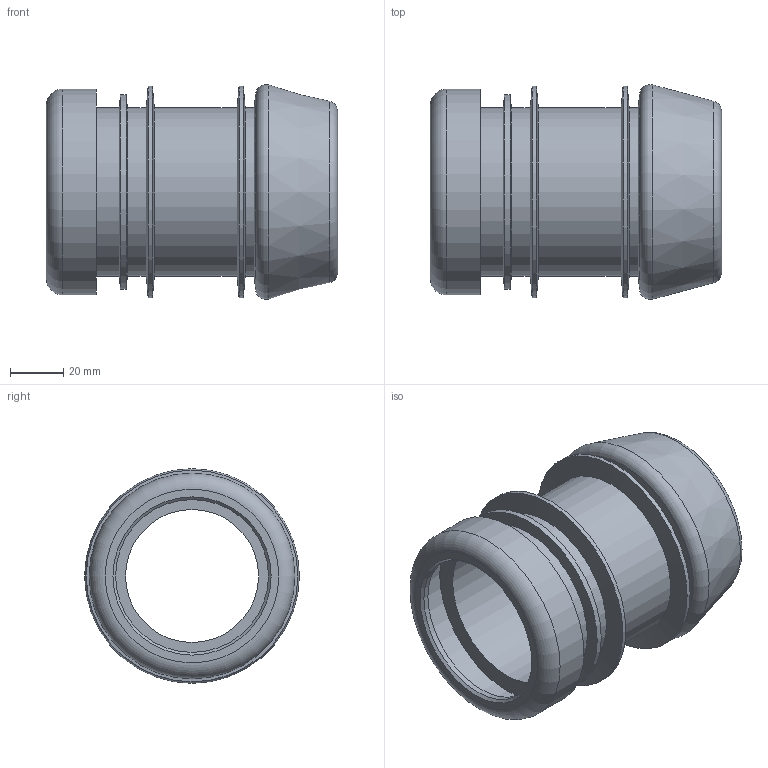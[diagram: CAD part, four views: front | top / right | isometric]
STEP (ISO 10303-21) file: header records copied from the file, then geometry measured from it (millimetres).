
FILE_DESCRIPTION(/* description */ (''),/* implementation_level */ '2;1');
FILE_NAME(/* name */ 'Z:\Geberit\Export\NewStep\305002.stp',/* time_stamp */ '2014-04-01T20:02:38+02:00',/* author */ ('ML'),/* organization */ (''),/* preprocessor_version */ 'ST-DEVELOPER v15.2',/* originating_system */ 'Autodesk Inventor 2014',/* authorisation */ '');
FILE_SCHEMA (('AUTOMOTIVE_DESIGN { 1 0 10303 214 3 1 1 }'));
Length unit declared in the file: millimetre
Products named in the file (1): 305002
Bounding box: 109 x 80.37 x 80.35 mm (x, y, z)
Volume: 96712.2 mm3; surface area: 63889.1 mm2
Topology: 1 solids, 1 shells, 37 faces, 68 edges, 37 vertices
Faces by surface type: cylinder 14, cone 13, plane 6, torus 4
Full cylindrical faces by diameter (mm): 49.8 x1, 57.2 x4, 63.2 x4, 70.9 x1, 72.8 x1, 77 x1, 79.2 x2
Entity records: 806 total; most frequent: DIRECTION 150, CARTESIAN_POINT 112, AXIS2_PLACEMENT_3D 75, EDGE_LOOP 74, ORIENTED_EDGE 74, FACE_BOUND 40, STYLED_ITEM 38, CIRCLE 37
